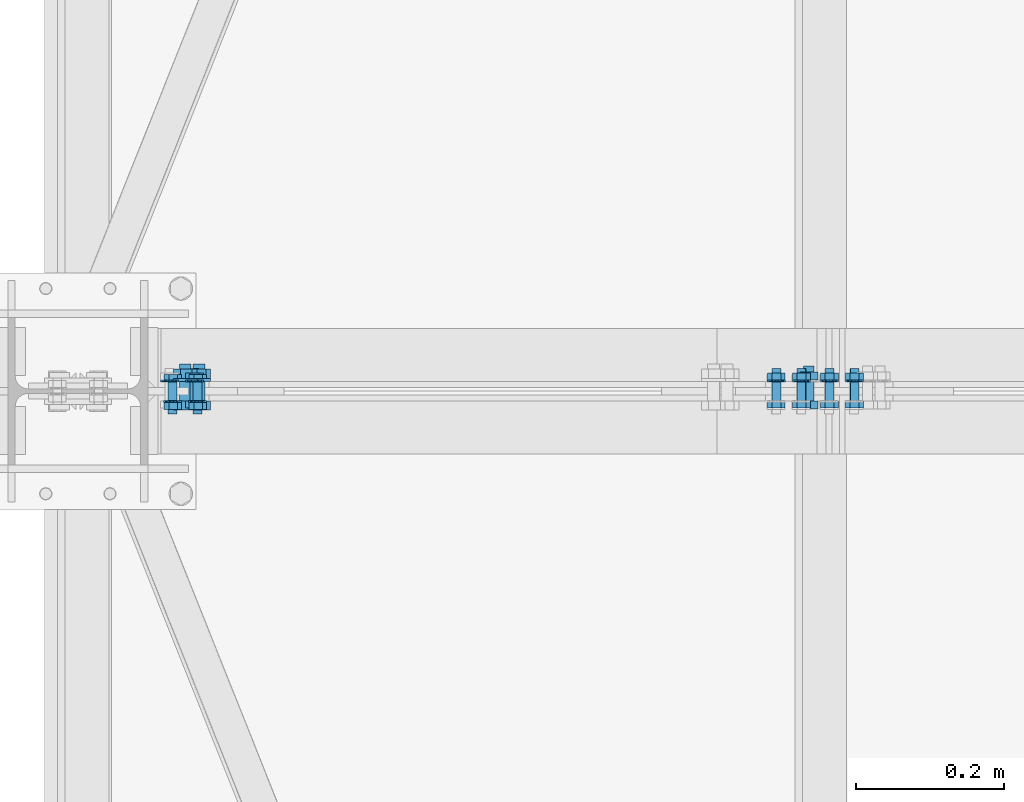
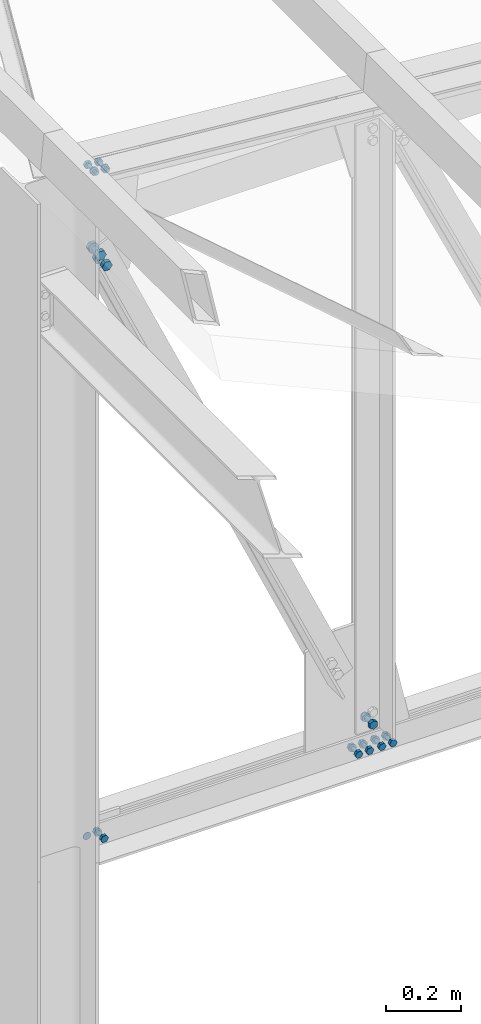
# One storey, part 138 of 251: 40 mechanical fasteners.
"""IFC4 building model written with IfcOpenShell, lengths in metres."""

from ifc_helpers import new_model, si_unit, frame, origin_with_axes, place, context, project, spatial, polyline, outline, extrude, type_object, element, save


model = new_model("IFC4")

# Units and contexts
model_context = context("Model", 3, precision=1e-05, world=origin_with_axes())
ifc_project = project(units=[si_unit("LENGTHUNIT", "METRE"), si_unit("AREAUNIT", "SQUARE_METRE"), si_unit("VOLUMEUNIT", "CUBIC_METRE"), si_unit("MASSUNIT", "GRAM", prefix="KILO"), si_unit("TIMEUNIT", "SECOND"), si_unit("PLANEANGLEUNIT", "RADIAN"), si_unit("SOLIDANGLEUNIT", "STERADIAN"), si_unit("THERMODYNAMICTEMPERATUREUNIT", "DEGREE_CELSIUS")], contexts=[model_context])

# Site, building, storey
placement_1 = place(None, origin_with_axes())
site = spatial("IfcSite", under=ifc_project, at=placement_1, Name="Italia", CompositionType="ELEMENT")
building = spatial("IfcBuilding", under=site, at=placement_1, Name="Deposito", CompositionType="ELEMENT")
storey = spatial("IfcBuildingStorey", under=building, at=placement_1, Name="Storey 0", CompositionType="ELEMENT", Elevation=0.0)

# Mechanical fasteners
mechanical_fastener_type_1 = type_object("IfcMechanicalFastenerType", Name="Reticolare 5", PredefinedType="BOLT")
placement_2 = place(placement_1, origin_with_axes())
mechanical_fastener_1_placement = place(placement_2, origin_with_axes())
element("IfcMechanicalFastener", 1, at=mechanical_fastener_1_placement, inside=storey, type_object=mechanical_fastener_type_1, Name="Reticolare 5", NominalDiameter=0.024, context=model_context, shape_type="SweptSolid", body=[
    extrude(outline(polyline([(0.0, 0.0), (-0.000409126, -0.00310564), (-0.00160789, -0.00600004), (-0.00351477, -0.00848532), (-0.00600004, -0.0103922), (-0.00889444, -0.011591), (-0.0120001, -0.0120001), (-0.0151057, -0.011591), (-0.0180001, -0.0103922), (-0.0204854, -0.00848532), (-0.0223923, -0.00600004), (-0.023591, -0.00310564), (-0.0240002, 0.0), (-0.023591, 0.00310564), (-0.0223923, 0.00600004), (-0.0204854, 0.00848532), (-0.0180001, 0.0103922), (-0.0151057, 0.011591), (-0.0120001, 0.0120001), (-0.00889444, 0.011591), (-0.00600004, 0.0103922), (-0.00351477, 0.00848532), (-0.00160789, 0.00600004), (-0.000409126, 0.00310564), (0.0, 0.0)])), frame((6.18605, 15.015, 5.007), z_axis=(0.0, -1.0, 0.0), x_axis=(1.0, 0.0, 0.0)), (0.0, 0.0, 1.0), 0.00200081),
])
mechanical_fastener_type_2 = type_object("IfcMechanicalFastenerType", Name="Reticolare 5", PredefinedType="BOLT")
mechanical_fastener_2_placement = place(placement_2, origin_with_axes())
element("IfcMechanicalFastener", 2, at=mechanical_fastener_2_placement, inside=storey, type_object=mechanical_fastener_type_2, Name="Reticolare 5", NominalDiameter=0.0119999, context=model_context, shape_type="SweptSolid", body=[
    extrude(outline(polyline([(0.0, 0.0), (-0.0120001, 0.0), (-0.0180001, 0.0103922), (-0.0120001, 0.0207844), (0.0, 0.0207844), (0.00600004, 0.0103922), (0.0, 0.0)])), frame((6.21405, 14.987, 4.99661), z_axis=(0.0, -1.0, 0.0), x_axis=(1.0, 0.0, 0.0)), (0.0, 0.0, 1.0), 0.00960064),
])
mechanical_fastener_type_3 = type_object("IfcMechanicalFastenerType", Name="Reticolare 5", PredefinedType="BOLT")
mechanical_fastener_3_placement = place(placement_2, origin_with_axes())
element("IfcMechanicalFastener", 3, at=mechanical_fastener_3_placement, inside=storey, type_object=mechanical_fastener_type_3, Name="Reticolare 5", NominalDiameter=0.012, context=model_context, shape_type="SweptSolid", body=[
    extrude(outline(polyline([(0.0, 0.0), (-0.000204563, -0.00155306), (-0.000803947, -0.00299978), (-0.00175762, -0.00424242), (-0.00300026, -0.00519609), (-0.00444698, -0.00579548), (-0.00600004, -0.00600004), (-0.0075531, -0.00579548), (-0.00899982, -0.00519609), (-0.0102425, -0.00424242), (-0.0111961, -0.00299978), (-0.0117955, -0.00155306), (-0.0120001, 0.0), (-0.0117955, 0.00155306), (-0.0111961, 0.00299978), (-0.0102425, 0.00424242), (-0.00899982, 0.00519609), (-0.0075531, 0.00579548), (-0.00600004, 0.00600004), (-0.00444698, 0.00579548), (-0.00300026, 0.00519609), (-0.00175762, 0.00424242), (-0.000803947, 0.00299978), (-0.000204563, 0.00155306), (0.0, 0.0)])), frame((6.21405, 15.031, 5.007), z_axis=(0.0, -1.0, 0.0), x_axis=(1.0, 0.0, 0.0)), (0.0, 0.0, 1.0), 0.0439997),
])
mechanical_fastener_type_4 = type_object("IfcMechanicalFastenerType", Name="Reticolare 5", PredefinedType="BOLT")
mechanical_fastener_4_placement = place(placement_2, origin_with_axes())
element("IfcMechanicalFastener", 4, at=mechanical_fastener_4_placement, inside=storey, type_object=mechanical_fastener_type_4, Name="Reticolare 5", NominalDiameter=0.0119999, context=model_context, shape_type="SweptSolid", body=[
    extrude(outline(polyline([(0.0, 0.0), (-0.0120001, 0.0), (-0.0180001, 0.0103922), (-0.0120001, 0.0207844), (0.0, 0.0207844), (0.00600004, 0.0103922), (0.0, 0.0)])), frame((6.21405, 15.0246, 4.99661), z_axis=(0.0, -1.0, 0.0), x_axis=(1.0, 0.0, 0.0)), (0.0, 0.0, 1.0), 0.00959969),
])
mechanical_fastener_type_5 = type_object("IfcMechanicalFastenerType", Name="Reticolare 5", PredefinedType="BOLT")
mechanical_fastener_5_placement = place(placement_2, origin_with_axes())
element("IfcMechanicalFastener", 5, at=mechanical_fastener_5_placement, inside=storey, type_object=mechanical_fastener_type_5, Name="Reticolare 5", NominalDiameter=0.024, context=model_context, shape_type="SweptSolid", body=[
    extrude(outline(polyline([(0.0, 0.0), (-0.000409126, -0.00310564), (-0.00160789, -0.00600004), (-0.00351477, -0.00848532), (-0.00600004, -0.0103922), (-0.00889444, -0.011591), (-0.0120001, -0.0120001), (-0.0151057, -0.011591), (-0.0180001, -0.0103922), (-0.0204854, -0.00848532), (-0.0223923, -0.00600004), (-0.023591, -0.00310564), (-0.0240002, 0.0), (-0.023591, 0.00310564), (-0.0223923, 0.00600004), (-0.0204854, 0.00848532), (-0.0180001, 0.0103922), (-0.0151057, 0.011591), (-0.0120001, 0.0120001), (-0.00889444, 0.011591), (-0.00600004, 0.0103922), (-0.00351477, 0.00848532), (-0.00160789, 0.00600004), (-0.000409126, 0.00310564), (0.0, 0.0)])), frame((6.22005, 15.015, 5.007), z_axis=(0.0, -1.0, 0.0), x_axis=(1.0, 0.0, 0.0)), (0.0, 0.0, 1.0), 0.00200081),
])
mechanical_fastener_type_6 = type_object("IfcMechanicalFastenerType", Name="Reticolare 5", PredefinedType="BOLT")
mechanical_fastener_6_placement = place(placement_2, origin_with_axes())
element("IfcMechanicalFastener", 6, at=mechanical_fastener_6_placement, inside=storey, type_object=mechanical_fastener_type_6, Name="Reticolare 5", NominalDiameter=0.0119999, context=model_context, shape_type="SweptSolid", body=[
    extrude(outline(polyline([(0.0, 0.0), (-0.0120001, 0.0), (-0.0180001, 0.0103922), (-0.0120001, 0.0207844), (0.0, 0.0207844), (0.00600004, 0.0103922), (0.0, 0.0)])), frame((7.03647, 14.987, 4.99661), z_axis=(0.0, -1.0, 0.0), x_axis=(1.0, 0.0, 0.0)), (0.0, 0.0, 1.0), 0.00960064),
])
mechanical_fastener_type_7 = type_object("IfcMechanicalFastenerType", Name="Reticolare 5", PredefinedType="BOLT")
mechanical_fastener_7_placement = place(placement_2, origin_with_axes())
element("IfcMechanicalFastener", 7, at=mechanical_fastener_7_placement, inside=storey, type_object=mechanical_fastener_type_7, Name="Reticolare 5", NominalDiameter=0.012, context=model_context, shape_type="SweptSolid", body=[
    extrude(outline(polyline([(0.0, 0.0), (-0.000204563, -0.00155306), (-0.000803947, -0.00299978), (-0.00175762, -0.00424242), (-0.00300026, -0.00519609), (-0.00444698, -0.00579548), (-0.00600004, -0.00600004), (-0.0075531, -0.00579548), (-0.00899982, -0.00519609), (-0.0102425, -0.00424242), (-0.0111961, -0.00299978), (-0.0117955, -0.00155306), (-0.0120001, 0.0), (-0.0117955, 0.00155306), (-0.0111961, 0.00299978), (-0.0102425, 0.00424242), (-0.00899982, 0.00519609), (-0.0075531, 0.00579548), (-0.00600004, 0.00600004), (-0.00444698, 0.00579548), (-0.00300026, 0.00519609), (-0.00175762, 0.00424242), (-0.000803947, 0.00299978), (-0.000204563, 0.00155306), (0.0, 0.0)])), frame((7.03647, 15.031, 5.007), z_axis=(0.0, -1.0, 0.0), x_axis=(1.0, 0.0, 0.0)), (0.0, 0.0, 1.0), 0.0439997),
])
mechanical_fastener_type_8 = type_object("IfcMechanicalFastenerType", Name="Reticolare 5", PredefinedType="BOLT")
mechanical_fastener_8_placement = place(placement_2, origin_with_axes())
element("IfcMechanicalFastener", 8, at=mechanical_fastener_8_placement, inside=storey, type_object=mechanical_fastener_type_8, Name="Reticolare 5", NominalDiameter=0.0119999, context=model_context, shape_type="SweptSolid", body=[
    extrude(outline(polyline([(0.0, 0.0), (-0.0120001, 0.0), (-0.0180001, 0.0103922), (-0.0120001, 0.0207844), (0.0, 0.0207844), (0.00600004, 0.0103922), (0.0, 0.0)])), frame((7.03647, 15.0246, 4.99661), z_axis=(0.0, -1.0, 0.0), x_axis=(1.0, 0.0, 0.0)), (0.0, 0.0, 1.0), 0.00959969),
])
mechanical_fastener_type_9 = type_object("IfcMechanicalFastenerType", Name="Reticolare 5", PredefinedType="BOLT")
mechanical_fastener_9_placement = place(placement_2, origin_with_axes())
element("IfcMechanicalFastener", 9, at=mechanical_fastener_9_placement, inside=storey, type_object=mechanical_fastener_type_9, Name="Reticolare 5", NominalDiameter=0.024, context=model_context, shape_type="SweptSolid", body=[
    extrude(outline(polyline([(0.0, 0.0), (-0.000409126, -0.00310564), (-0.00160789, -0.00600004), (-0.00351477, -0.00848532), (-0.00600004, -0.0103922), (-0.00889444, -0.011591), (-0.0120001, -0.0120001), (-0.0151057, -0.011591), (-0.0180001, -0.0103922), (-0.0204854, -0.00848532), (-0.0223923, -0.00600004), (-0.023591, -0.00310564), (-0.0240002, 0.0), (-0.023591, 0.00310564), (-0.0223923, 0.00600004), (-0.0204854, 0.00848532), (-0.0180001, 0.0103922), (-0.0151057, 0.011591), (-0.0120001, 0.0120001), (-0.00889444, 0.011591), (-0.00600004, 0.0103922), (-0.00351477, 0.00848532), (-0.00160789, 0.00600004), (-0.000409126, 0.00310564), (0.0, 0.0)])), frame((7.04247, 15.015, 5.007), z_axis=(0.0, -1.0, 0.0), x_axis=(1.0, 0.0, 0.0)), (0.0, 0.0, 1.0), 0.00200081),
])
mechanical_fastener_type_10 = type_object("IfcMechanicalFastenerType", Name="Reticolare 5", PredefinedType="BOLT")
mechanical_fastener_10_placement = place(placement_2, origin_with_axes())
element("IfcMechanicalFastener", 10, at=mechanical_fastener_10_placement, inside=storey, type_object=mechanical_fastener_type_10, Name="Reticolare 5", NominalDiameter=0.0119999, context=model_context, shape_type="SweptSolid", body=[
    extrude(outline(polyline([(0.0, 0.0), (-0.0120001, 0.0), (-0.0180001, 0.0103922), (-0.0120001, 0.0207844), (0.0, 0.0207844), (0.00600004, 0.0103922), (0.0, 0.0)])), frame((7.00247, 14.987, 4.99661), z_axis=(0.0, -1.0, 0.0), x_axis=(1.0, 0.0, 0.0)), (0.0, 0.0, 1.0), 0.00960064),
])
mechanical_fastener_type_11 = type_object("IfcMechanicalFastenerType", Name="Reticolare 5", PredefinedType="BOLT")
mechanical_fastener_11_placement = place(placement_2, origin_with_axes())
element("IfcMechanicalFastener", 11, at=mechanical_fastener_11_placement, inside=storey, type_object=mechanical_fastener_type_11, Name="Reticolare 5", NominalDiameter=0.012, context=model_context, shape_type="SweptSolid", body=[
    extrude(outline(polyline([(0.0, 0.0), (-0.000204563, -0.00155306), (-0.000803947, -0.00299978), (-0.00175762, -0.00424242), (-0.00300026, -0.00519609), (-0.00444698, -0.00579548), (-0.00600004, -0.00600004), (-0.0075531, -0.00579548), (-0.00899982, -0.00519609), (-0.0102425, -0.00424242), (-0.0111961, -0.00299978), (-0.0117955, -0.00155306), (-0.0120001, 0.0), (-0.0117955, 0.00155306), (-0.0111961, 0.00299978), (-0.0102425, 0.00424242), (-0.00899982, 0.00519609), (-0.0075531, 0.00579548), (-0.00600004, 0.00600004), (-0.00444698, 0.00579548), (-0.00300026, 0.00519609), (-0.00175762, 0.00424242), (-0.000803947, 0.00299978), (-0.000204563, 0.00155306), (0.0, 0.0)])), frame((7.00247, 15.031, 5.007), z_axis=(0.0, -1.0, 0.0), x_axis=(1.0, 0.0, 0.0)), (0.0, 0.0, 1.0), 0.0439997),
])
mechanical_fastener_type_12 = type_object("IfcMechanicalFastenerType", Name="Reticolare 5", PredefinedType="BOLT")
mechanical_fastener_12_placement = place(placement_2, origin_with_axes())
element("IfcMechanicalFastener", 12, at=mechanical_fastener_12_placement, inside=storey, type_object=mechanical_fastener_type_12, Name="Reticolare 5", NominalDiameter=0.0119999, context=model_context, shape_type="SweptSolid", body=[
    extrude(outline(polyline([(0.0, 0.0), (-0.0120001, 0.0), (-0.0180001, 0.0103922), (-0.0120001, 0.0207844), (0.0, 0.0207844), (0.00600004, 0.0103922), (0.0, 0.0)])), frame((7.00247, 15.0246, 4.99661), z_axis=(0.0, -1.0, 0.0), x_axis=(1.0, 0.0, 0.0)), (0.0, 0.0, 1.0), 0.00959969),
])
mechanical_fastener_type_13 = type_object("IfcMechanicalFastenerType", Name="Reticolare 5", PredefinedType="BOLT")
mechanical_fastener_13_placement = place(placement_2, origin_with_axes())
element("IfcMechanicalFastener", 13, at=mechanical_fastener_13_placement, inside=storey, type_object=mechanical_fastener_type_13, Name="Reticolare 5", NominalDiameter=0.024, context=model_context, shape_type="SweptSolid", body=[
    extrude(outline(polyline([(0.0, 0.0), (-0.000409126, -0.00310564), (-0.00160789, -0.00600004), (-0.00351477, -0.00848532), (-0.00600004, -0.0103922), (-0.00889444, -0.011591), (-0.0120001, -0.0120001), (-0.0151057, -0.011591), (-0.0180001, -0.0103922), (-0.0204854, -0.00848532), (-0.0223923, -0.00600004), (-0.023591, -0.00310564), (-0.0240002, 0.0), (-0.023591, 0.00310564), (-0.0223923, 0.00600004), (-0.0204854, 0.00848532), (-0.0180001, 0.0103922), (-0.0151057, 0.011591), (-0.0120001, 0.0120001), (-0.00889444, 0.011591), (-0.00600004, 0.0103922), (-0.00351477, 0.00848532), (-0.00160789, 0.00600004), (-0.000409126, 0.00310564), (0.0, 0.0)])), frame((7.00847, 15.015, 5.007), z_axis=(0.0, -1.0, 0.0), x_axis=(1.0, 0.0, 0.0)), (0.0, 0.0, 1.0), 0.00200081),
])
mechanical_fastener_type_14 = type_object("IfcMechanicalFastenerType", Name="Reticolare 5", PredefinedType="BOLT")
mechanical_fastener_14_placement = place(placement_2, origin_with_axes())
element("IfcMechanicalFastener", 14, at=mechanical_fastener_14_placement, inside=storey, type_object=mechanical_fastener_type_14, Name="Reticolare 5", NominalDiameter=0.0119999, context=model_context, shape_type="SweptSolid", body=[
    extrude(outline(polyline([(0.0, 0.0), (-0.0120001, 0.0), (-0.0180001, 0.0103922), (-0.0120001, 0.0207844), (0.0, 0.0207844), (0.00600004, 0.0103922), (0.0, 0.0)])), frame((7.07447, 14.987, 4.99661), z_axis=(0.0, -1.0, 0.0), x_axis=(1.0, 0.0, 0.0)), (0.0, 0.0, 1.0), 0.00960064),
])
mechanical_fastener_type_15 = type_object("IfcMechanicalFastenerType", Name="Reticolare 5", PredefinedType="BOLT")
mechanical_fastener_15_placement = place(placement_2, origin_with_axes())
element("IfcMechanicalFastener", 15, at=mechanical_fastener_15_placement, inside=storey, type_object=mechanical_fastener_type_15, Name="Reticolare 5", NominalDiameter=0.012, context=model_context, shape_type="SweptSolid", body=[
    extrude(outline(polyline([(0.0, 0.0), (-0.000204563, -0.00155306), (-0.000803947, -0.00299978), (-0.00175762, -0.00424242), (-0.00300026, -0.00519609), (-0.00444698, -0.00579548), (-0.00600004, -0.00600004), (-0.0075531, -0.00579548), (-0.00899982, -0.00519609), (-0.0102425, -0.00424242), (-0.0111961, -0.00299978), (-0.0117955, -0.00155306), (-0.0120001, 0.0), (-0.0117955, 0.00155306), (-0.0111961, 0.00299978), (-0.0102425, 0.00424242), (-0.00899982, 0.00519609), (-0.0075531, 0.00579548), (-0.00600004, 0.00600004), (-0.00444698, 0.00579548), (-0.00300026, 0.00519609), (-0.00175762, 0.00424242), (-0.000803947, 0.00299978), (-0.000204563, 0.00155306), (0.0, 0.0)])), frame((7.07447, 15.031, 5.007), z_axis=(0.0, -1.0, 0.0), x_axis=(1.0, 0.0, 0.0)), (0.0, 0.0, 1.0), 0.0439997),
])
mechanical_fastener_type_16 = type_object("IfcMechanicalFastenerType", Name="Reticolare 5", PredefinedType="BOLT")
mechanical_fastener_16_placement = place(placement_2, origin_with_axes())
element("IfcMechanicalFastener", 16, at=mechanical_fastener_16_placement, inside=storey, type_object=mechanical_fastener_type_16, Name="Reticolare 5", NominalDiameter=0.0119999, context=model_context, shape_type="SweptSolid", body=[
    extrude(outline(polyline([(0.0, 0.0), (-0.0120001, 0.0), (-0.0180001, 0.0103922), (-0.0120001, 0.0207844), (0.0, 0.0207844), (0.00600004, 0.0103922), (0.0, 0.0)])), frame((7.07447, 15.0246, 4.99661), z_axis=(0.0, -1.0, 0.0), x_axis=(1.0, 0.0, 0.0)), (0.0, 0.0, 1.0), 0.00959969),
])
mechanical_fastener_type_17 = type_object("IfcMechanicalFastenerType", Name="Reticolare 5", PredefinedType="BOLT")
mechanical_fastener_17_placement = place(placement_2, origin_with_axes())
element("IfcMechanicalFastener", 17, at=mechanical_fastener_17_placement, inside=storey, type_object=mechanical_fastener_type_17, Name="Reticolare 5", NominalDiameter=0.024, context=model_context, shape_type="SweptSolid", body=[
    extrude(outline(polyline([(0.0, 0.0), (-0.000409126, -0.00310564), (-0.00160789, -0.00600004), (-0.00351477, -0.00848532), (-0.00600004, -0.0103922), (-0.00889444, -0.011591), (-0.0120001, -0.0120001), (-0.0151057, -0.011591), (-0.0180001, -0.0103922), (-0.0204854, -0.00848532), (-0.0223923, -0.00600004), (-0.023591, -0.00310564), (-0.0240002, 0.0), (-0.023591, 0.00310564), (-0.0223923, 0.00600004), (-0.0204854, 0.00848532), (-0.0180001, 0.0103922), (-0.0151057, 0.011591), (-0.0120001, 0.0120001), (-0.00889444, 0.011591), (-0.00600004, 0.0103922), (-0.00351477, 0.00848532), (-0.00160789, 0.00600004), (-0.000409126, 0.00310564), (0.0, 0.0)])), frame((7.08047, 15.015, 5.007), z_axis=(0.0, -1.0, 0.0), x_axis=(1.0, 0.0, 0.0)), (0.0, 0.0, 1.0), 0.00200081),
])
mechanical_fastener_type_18 = type_object("IfcMechanicalFastenerType", Name="Reticolare 5", PredefinedType="BOLT")
mechanical_fastener_18_placement = place(placement_2, origin_with_axes())
element("IfcMechanicalFastener", 18, at=mechanical_fastener_18_placement, inside=storey, type_object=mechanical_fastener_type_18, Name="Reticolare 5", NominalDiameter=0.0119999, context=model_context, shape_type="SweptSolid", body=[
    extrude(outline(polyline([(0.0, 0.0), (-0.0120001, 0.0), (-0.0180001, 0.0103922), (-0.0120001, 0.0207844), (0.0, 0.0207844), (0.00600004, 0.0103922), (0.0, 0.0)])), frame((7.10847, 14.987, 4.99661), z_axis=(0.0, -1.0, 0.0), x_axis=(1.0, 0.0, 0.0)), (0.0, 0.0, 1.0), 0.00960064),
])
mechanical_fastener_type_19 = type_object("IfcMechanicalFastenerType", Name="Reticolare 5", PredefinedType="BOLT")
mechanical_fastener_19_placement = place(placement_2, origin_with_axes())
element("IfcMechanicalFastener", 19, at=mechanical_fastener_19_placement, inside=storey, type_object=mechanical_fastener_type_19, Name="Reticolare 5", NominalDiameter=0.012, context=model_context, shape_type="SweptSolid", body=[
    extrude(outline(polyline([(0.0, 0.0), (-0.000204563, -0.00155306), (-0.000803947, -0.00299978), (-0.00175762, -0.00424242), (-0.00300026, -0.00519609), (-0.00444698, -0.00579548), (-0.00600004, -0.00600004), (-0.0075531, -0.00579548), (-0.00899982, -0.00519609), (-0.0102425, -0.00424242), (-0.0111961, -0.00299978), (-0.0117955, -0.00155306), (-0.0120001, 0.0), (-0.0117955, 0.00155306), (-0.0111961, 0.00299978), (-0.0102425, 0.00424242), (-0.00899982, 0.00519609), (-0.0075531, 0.00579548), (-0.00600004, 0.00600004), (-0.00444698, 0.00579548), (-0.00300026, 0.00519609), (-0.00175762, 0.00424242), (-0.000803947, 0.00299978), (-0.000204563, 0.00155306), (0.0, 0.0)])), frame((7.10847, 15.031, 5.007), z_axis=(0.0, -1.0, 0.0), x_axis=(1.0, 0.0, 0.0)), (0.0, 0.0, 1.0), 0.0439997),
])
mechanical_fastener_type_20 = type_object("IfcMechanicalFastenerType", Name="Reticolare 5", PredefinedType="BOLT")
mechanical_fastener_20_placement = place(placement_2, origin_with_axes())
element("IfcMechanicalFastener", 20, at=mechanical_fastener_20_placement, inside=storey, type_object=mechanical_fastener_type_20, Name="Reticolare 5", NominalDiameter=0.0119999, context=model_context, shape_type="SweptSolid", body=[
    extrude(outline(polyline([(0.0, 0.0), (-0.0120001, 0.0), (-0.0180001, 0.0103922), (-0.0120001, 0.0207844), (0.0, 0.0207844), (0.00600004, 0.0103922), (0.0, 0.0)])), frame((7.10847, 15.0246, 4.99661), z_axis=(0.0, -1.0, 0.0), x_axis=(1.0, 0.0, 0.0)), (0.0, 0.0, 1.0), 0.00959969),
])
mechanical_fastener_type_21 = type_object("IfcMechanicalFastenerType", Name="Reticolare 5", PredefinedType="BOLT")
mechanical_fastener_21_placement = place(placement_2, origin_with_axes())
element("IfcMechanicalFastener", 21, at=mechanical_fastener_21_placement, inside=storey, type_object=mechanical_fastener_type_21, Name="Reticolare 5", NominalDiameter=0.024, context=model_context, shape_type="SweptSolid", body=[
    extrude(outline(polyline([(0.0, 0.0), (-0.000409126, -0.00310564), (-0.00160789, -0.00600004), (-0.00351477, -0.00848532), (-0.00600004, -0.0103922), (-0.00889444, -0.011591), (-0.0120001, -0.0120001), (-0.0151057, -0.011591), (-0.0180001, -0.0103922), (-0.0204854, -0.00848532), (-0.0223923, -0.00600004), (-0.023591, -0.00310564), (-0.0240002, 0.0), (-0.023591, 0.00310564), (-0.0223923, 0.00600004), (-0.0204854, 0.00848532), (-0.0180001, 0.0103922), (-0.0151057, 0.011591), (-0.0120001, 0.0120001), (-0.00889444, 0.011591), (-0.00600004, 0.0103922), (-0.00351477, 0.00848532), (-0.00160789, 0.00600004), (-0.000409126, 0.00310564), (0.0, 0.0)])), frame((7.11447, 15.015, 5.007), z_axis=(0.0, -1.0, 0.0), x_axis=(1.0, 0.0, 0.0)), (0.0, 0.0, 1.0), 0.00200081),
])
mechanical_fastener_type_22 = type_object("IfcMechanicalFastenerType", Name="Reticolare 5", PredefinedType="BOLT")
mechanical_fastener_22_placement = place(placement_2, origin_with_axes())
element("IfcMechanicalFastener", 22, at=mechanical_fastener_22_placement, inside=storey, type_object=mechanical_fastener_type_22, Name="Reticolare 5", NominalDiameter=0.0139997, context=model_context, shape_type="SweptSolid", body=[
    extrude(outline(polyline([(0.0, 0.0), (0.0, -0.0139999), (-0.0121241, -0.0209999), (-0.0242486, -0.0139999), (-0.0242486, 0.0), (-0.0121241, 0.00699997), (0.0, 0.0)])), frame((7.05259, 14.987, 5.09653), z_axis=(0.0, -1.0, 0.0), x_axis=(1.0, 0.0, 0.0)), (0.0, 0.0, 1.0), 0.0112009),
])
mechanical_fastener_type_23 = type_object("IfcMechanicalFastenerType", Name="Reticolare 5", PredefinedType="BOLT")
mechanical_fastener_23_placement = place(placement_2, origin_with_axes())
element("IfcMechanicalFastener", 23, at=mechanical_fastener_23_placement, inside=storey, type_object=mechanical_fastener_type_23, Name="Reticolare 5", NominalDiameter=0.014, context=model_context, shape_type="SweptSolid", body=[
    extrude(outline(polyline([(0.0, 0.0), (-0.000238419, -0.0018115), (-0.000937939, -0.00349998), (-0.0020504, -0.00494957), (-0.00349998, -0.00606203), (-0.00518847, -0.00676155), (-0.00699997, -0.00699997), (-0.00881147, -0.00676155), (-0.0105, -0.00606203), (-0.0119495, -0.00494957), (-0.013062, -0.00349998), (-0.0137615, -0.0018115), (-0.0139999, 0.0), (-0.0137615, 0.0018115), (-0.013062, 0.00349998), (-0.0119495, 0.00494957), (-0.0105, 0.00606203), (-0.00881147, 0.00676155), (-0.00699997, 0.00699997), (-0.00518847, 0.00676155), (-0.00349998, 0.00606203), (-0.0020504, 0.00494957), (-0.000937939, 0.00349998), (-0.000238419, 0.0018115), (0.0, 0.0)])), frame((7.04747, 15.034, 5.08953), z_axis=(0.0, -1.0, 0.0), x_axis=(1.0, 0.0, 0.0)), (0.0, 0.0, 1.0), 0.0469999),
])
mechanical_fastener_type_24 = type_object("IfcMechanicalFastenerType", Name="Reticolare 5", PredefinedType="BOLT")
mechanical_fastener_24_placement = place(placement_2, origin_with_axes())
element("IfcMechanicalFastener", 24, at=mechanical_fastener_24_placement, inside=storey, type_object=mechanical_fastener_type_24, Name="Reticolare 5", NominalDiameter=0.0139997, context=model_context, shape_type="SweptSolid", body=[
    extrude(outline(polyline([(0.0, 0.0), (0.0, -0.0139999), (-0.0121241, -0.0209999), (-0.0242486, -0.0139999), (-0.0242486, 0.0), (-0.0121241, 0.00699997), (0.0, 0.0)])), frame((7.05259, 15.0262, 5.09653), z_axis=(0.0, -1.0, 0.0), x_axis=(1.0, 0.0, 0.0)), (0.0, 0.0, 1.0), 0.0112),
])
mechanical_fastener_type_25 = type_object("IfcMechanicalFastenerType", Name="Reticolare 5", PredefinedType="BOLT")
mechanical_fastener_25_placement = place(placement_2, origin_with_axes())
element("IfcMechanicalFastener", 25, at=mechanical_fastener_25_placement, inside=storey, type_object=mechanical_fastener_type_25, Name="Reticolare 5", NominalDiameter=0.012, context=model_context, shape_type="SweptSolid", body=[
    extrude(outline(polyline([(0.0, 0.0), (0.0119548, 0.00104237), (0.0188351, -0.00878954), (0.0137606, -0.0196638), (0.00180578, -0.0207062), (-0.0050745, -0.0108743), (0.0, 0.0)])), frame((6.18524, 15.013, 7.21179), z_axis=(0.0, 1.0, 0.0), x_axis=(-1.0, 0.0, 0.0)), (0.0, 0.0, 1.0), 0.00960064),
])
mechanical_fastener_type_26 = type_object("IfcMechanicalFastenerType", Name="Reticolare 5", PredefinedType="BOLT")
mechanical_fastener_26_placement = place(placement_2, origin_with_axes())
element("IfcMechanicalFastener", 26, at=mechanical_fastener_26_placement, inside=storey, type_object=mechanical_fastener_type_26, Name="Reticolare 5", NominalDiameter=0.012, context=model_context, shape_type="SweptSolid", body=[
    extrude(outline(polyline([(0.0, 0.0), (-0.000204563, -0.00155306), (-0.000803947, -0.00299978), (-0.00175762, -0.00424242), (-0.00300026, -0.00519609), (-0.00444698, -0.00579548), (-0.00600004, -0.00600004), (-0.0075531, -0.00579548), (-0.00899982, -0.00519609), (-0.0102425, -0.00424242), (-0.0111961, -0.00299978), (-0.0117955, -0.00155306), (-0.0120001, 0.0), (-0.0117955, 0.00155306), (-0.0111961, 0.00299978), (-0.0102425, 0.00424242), (-0.00899982, 0.00519609), (-0.0075531, 0.00579548), (-0.00600004, 0.00600004), (-0.00444698, 0.00579548), (-0.00300026, 0.00519609), (-0.00175762, 0.00424242), (-0.000803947, 0.00299978), (-0.000204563, 0.00155306), (0.0, 0.0)])), frame((6.17236, 14.969, 7.20196), z_axis=(0.0, 1.0, 0.0), x_axis=(-1.0, 0.0, 0.0)), (0.0, 0.0, 1.0), 0.0439997),
])
mechanical_fastener_type_27 = type_object("IfcMechanicalFastenerType", Name="Reticolare 5", PredefinedType="BOLT")
mechanical_fastener_27_placement = place(placement_2, origin_with_axes())
element("IfcMechanicalFastener", 27, at=mechanical_fastener_27_placement, inside=storey, type_object=mechanical_fastener_type_27, Name="Reticolare 5", NominalDiameter=0.012, context=model_context, shape_type="SweptSolid", body=[
    extrude(outline(polyline([(0.0, 0.0), (0.0119548, 0.00104237), (0.0188351, -0.00878954), (0.0137606, -0.0196638), (0.00180578, -0.0207062), (-0.0050745, -0.0108743), (0.0, 0.0)])), frame((6.18524, 14.9754, 7.21179), z_axis=(0.0, 1.0, 0.0), x_axis=(-1.0, 0.0, 0.0)), (0.0, 0.0, 1.0), 0.00959969),
])
mechanical_fastener_type_28 = type_object("IfcMechanicalFastenerType", Name="Reticolare 5", PredefinedType="BOLT")
mechanical_fastener_28_placement = place(placement_2, origin_with_axes())
element("IfcMechanicalFastener", 28, at=mechanical_fastener_28_placement, inside=storey, type_object=mechanical_fastener_type_28, Name="Reticolare 5", NominalDiameter=0.024, context=model_context, shape_type="SweptSolid", body=[
    extrude(outline(polyline([(0.0, 0.0), (-0.000409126, -0.00310564), (-0.00160789, -0.00600004), (-0.00351477, -0.00848532), (-0.00600004, -0.0103922), (-0.00889444, -0.011591), (-0.0120001, -0.0120001), (-0.0151057, -0.011591), (-0.0180001, -0.0103922), (-0.0204854, -0.00848532), (-0.0223923, -0.00600004), (-0.023591, -0.00310564), (-0.0240002, 0.0), (-0.023591, 0.00310564), (-0.0223923, 0.00600004), (-0.0204854, 0.00848532), (-0.0180001, 0.0103922), (-0.0151057, 0.011591), (-0.0120001, 0.0120001), (-0.00889444, 0.011591), (-0.00600004, 0.0103922), (-0.00351477, 0.00848532), (-0.00160789, 0.00600004), (-0.000409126, 0.00310564), (0.0, 0.0)])), frame((6.16636, 14.985, 7.20196), z_axis=(0.0, 1.0, 0.0), x_axis=(-1.0, 0.0, 0.0)), (0.0, 0.0, 1.0), 0.00200081),
])
mechanical_fastener_type_29 = type_object("IfcMechanicalFastenerType", Name="Reticolare 5", PredefinedType="BOLT")
mechanical_fastener_29_placement = place(placement_2, origin_with_axes())
element("IfcMechanicalFastener", 29, at=mechanical_fastener_29_placement, inside=storey, type_object=mechanical_fastener_type_29, Name="Reticolare 5", NominalDiameter=0.0119995, context=model_context, shape_type="SweptSolid", body=[
    extrude(outline(polyline([(0.0, 0.0), (0.0119543, 0.00104284), (0.0188346, -0.00878906), (0.0137601, -0.0196633), (0.00180531, -0.0207057), (-0.0050745, -0.0108743), (0.0, 0.0)])), frame((6.21912, 15.013, 7.20884), z_axis=(0.0, 1.0, 0.0), x_axis=(-1.0, 0.0, 0.0)), (0.0, 0.0, 1.0), 0.00960064),
])
mechanical_fastener_type_30 = type_object("IfcMechanicalFastenerType", Name="Reticolare 5", PredefinedType="BOLT")
mechanical_fastener_30_placement = place(placement_2, origin_with_axes())
element("IfcMechanicalFastener", 30, at=mechanical_fastener_30_placement, inside=storey, type_object=mechanical_fastener_type_30, Name="Reticolare 5", NominalDiameter=0.012, context=model_context, shape_type="SweptSolid", body=[
    extrude(outline(polyline([(0.0, 0.0), (-0.000204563, -0.00155306), (-0.000803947, -0.00299978), (-0.00175762, -0.00424242), (-0.00300026, -0.00519609), (-0.00444698, -0.00579548), (-0.00600004, -0.00600004), (-0.0075531, -0.00579548), (-0.00899982, -0.00519609), (-0.0102425, -0.00424242), (-0.0111961, -0.00299978), (-0.0117955, -0.00155306), (-0.0120001, 0.0), (-0.0117955, 0.00155306), (-0.0111961, 0.00299978), (-0.0102425, 0.00424242), (-0.00899982, 0.00519609), (-0.0075531, 0.00579548), (-0.00600004, 0.00600004), (-0.00444698, 0.00579548), (-0.00300026, 0.00519609), (-0.00175762, 0.00424242), (-0.000803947, 0.00299978), (-0.000204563, 0.00155306), (0.0, 0.0)])), frame((6.20624, 14.969, 7.19901), z_axis=(0.0, 1.0, 0.0), x_axis=(-1.0, 0.0, 0.0)), (0.0, 0.0, 1.0), 0.0439997),
])
mechanical_fastener_type_31 = type_object("IfcMechanicalFastenerType", Name="Reticolare 5", PredefinedType="BOLT")
mechanical_fastener_31_placement = place(placement_2, origin_with_axes())
element("IfcMechanicalFastener", 31, at=mechanical_fastener_31_placement, inside=storey, type_object=mechanical_fastener_type_31, Name="Reticolare 5", NominalDiameter=0.0119995, context=model_context, shape_type="SweptSolid", body=[
    extrude(outline(polyline([(0.0, 0.0), (0.0119543, 0.00104284), (0.0188346, -0.00878906), (0.0137601, -0.0196633), (0.00180531, -0.0207057), (-0.0050745, -0.0108743), (0.0, 0.0)])), frame((6.21912, 14.9754, 7.20884), z_axis=(0.0, 1.0, 0.0), x_axis=(-1.0, 0.0, 0.0)), (0.0, 0.0, 1.0), 0.00959969),
])
mechanical_fastener_type_32 = type_object("IfcMechanicalFastenerType", Name="Reticolare 5", PredefinedType="BOLT")
mechanical_fastener_32_placement = place(placement_2, origin_with_axes())
element("IfcMechanicalFastener", 32, at=mechanical_fastener_32_placement, inside=storey, type_object=mechanical_fastener_type_32, Name="Reticolare 5", NominalDiameter=0.024, context=model_context, shape_type="SweptSolid", body=[
    extrude(outline(polyline([(0.0, 0.0), (-0.000409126, -0.00310564), (-0.00160789, -0.00600004), (-0.00351477, -0.00848532), (-0.00600004, -0.0103922), (-0.00889444, -0.011591), (-0.0120001, -0.0120001), (-0.0151057, -0.011591), (-0.0180001, -0.0103922), (-0.0204854, -0.00848532), (-0.0223923, -0.00600004), (-0.023591, -0.00310564), (-0.0240002, 0.0), (-0.023591, 0.00310564), (-0.0223923, 0.00600004), (-0.0204854, 0.00848532), (-0.0180001, 0.0103922), (-0.0151057, 0.011591), (-0.0120001, 0.0120001), (-0.00889444, 0.011591), (-0.00600004, 0.0103922), (-0.00351477, 0.00848532), (-0.00160789, 0.00600004), (-0.000409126, 0.00310564), (0.0, 0.0)])), frame((6.20024, 14.985, 7.19901), z_axis=(0.0, 1.0, 0.0), x_axis=(-1.0, 0.0, 0.0)), (0.0, 0.0, 1.0), 0.00200081),
])
mechanical_fastener_type_33 = type_object("IfcMechanicalFastenerType", Name="Reticolare 5", PredefinedType="BOLT")
mechanical_fastener_33_placement = place(placement_2, origin_with_axes())
element("IfcMechanicalFastener", 33, at=mechanical_fastener_33_placement, inside=storey, type_object=mechanical_fastener_type_33, Name="Reticolare 5", NominalDiameter=0.0159996, context=model_context, shape_type="SweptSolid", body=[
    extrude(outline(polyline([(0.0, 0.0), (-0.00656796, 0.0145898), (0.00278282, 0.0275726), (0.018702, 0.0259657), (0.02527, 0.0113759), (0.0159187, -0.00160694), (0.0, 0.0)])), frame((6.18611, 14.987, 6.91087), z_axis=(0.0, -1.0, 0.0), x_axis=(1.0, 0.0, 0.0)), (0.0, 0.0, 1.0), 0.0128002),
])
mechanical_fastener_type_34 = type_object("IfcMechanicalFastenerType", Name="Reticolare 5", PredefinedType="BOLT")
mechanical_fastener_34_placement = place(placement_2, origin_with_axes())
element("IfcMechanicalFastener", 34, at=mechanical_fastener_34_placement, inside=storey, type_object=mechanical_fastener_type_34, Name="Reticolare 5", NominalDiameter=0.016, context=model_context, shape_type="SweptSolid", body=[
    extrude(outline(polyline([(0.0, 0.0), (-0.000272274, -0.00207043), (-0.00107193, -0.00400019), (-0.00234318, -0.00565672), (-0.00399971, -0.00692797), (-0.00592947, -0.00772762), (-0.0079999, -0.0079999), (-0.0100703, -0.00772762), (-0.0120001, -0.00692797), (-0.0136566, -0.00565672), (-0.0149279, -0.00400019), (-0.0157275, -0.00207043), (-0.0159998, 0.0), (-0.0157275, 0.00207043), (-0.0149279, 0.00400019), (-0.0136566, 0.00565672), (-0.0120001, 0.00692797), (-0.0100703, 0.00772762), (-0.0079999, 0.0079999), (-0.00592947, 0.00772762), (-0.00399971, 0.00692797), (-0.00234318, 0.00565672), (-0.00107193, 0.00400019), (-0.000272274, 0.00207043), (0.0, 0.0)])), frame((6.20346, 15.037, 6.92385), z_axis=(0.0, -1.0, 0.0), x_axis=(1.0, 0.0, 0.0)), (0.0, 0.0, 1.0), 0.0499992),
])
mechanical_fastener_type_35 = type_object("IfcMechanicalFastenerType", Name="Reticolare 5", PredefinedType="BOLT")
mechanical_fastener_35_placement = place(placement_2, origin_with_axes())
element("IfcMechanicalFastener", 35, at=mechanical_fastener_35_placement, inside=storey, type_object=mechanical_fastener_type_35, Name="Reticolare 5", NominalDiameter=0.0159996, context=model_context, shape_type="SweptSolid", body=[
    extrude(outline(polyline([(0.0, 0.0), (-0.00656796, 0.0145898), (0.00278282, 0.0275726), (0.018702, 0.0259657), (0.02527, 0.0113759), (0.0159187, -0.00160694), (0.0, 0.0)])), frame((6.18611, 15.0298, 6.91087), z_axis=(0.0, -1.0, 0.0), x_axis=(1.0, 0.0, 0.0)), (0.0, 0.0, 1.0), 0.0128002),
])
mechanical_fastener_type_36 = type_object("IfcMechanicalFastenerType", Name="Reticolare 5", PredefinedType="BOLT")
mechanical_fastener_36_placement = place(placement_2, origin_with_axes())
element("IfcMechanicalFastener", 36, at=mechanical_fastener_36_placement, inside=storey, type_object=mechanical_fastener_type_36, Name="Reticolare 5", NominalDiameter=0.032, context=model_context, shape_type="SweptSolid", body=[
    extrude(outline(polyline([(0.0, 0.0), (-0.000545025, -0.00414133), (-0.00214338, -0.0079999), (-0.00468588, -0.0113139), (-0.0079999, -0.0138564), (-0.0118585, -0.0154548), (-0.0159998, -0.0159998), (-0.0201411, -0.0154548), (-0.0239997, -0.0138564), (-0.0273137, -0.0113139), (-0.0298562, -0.0079999), (-0.0314546, -0.00414133), (-0.0319996, 0.0), (-0.0314546, 0.00414133), (-0.0298562, 0.0079999), (-0.0273137, 0.0113139), (-0.0239997, 0.0138564), (-0.0201411, 0.0154548), (-0.0159998, 0.0159998), (-0.0118585, 0.0154548), (-0.0079999, 0.0138564), (-0.00468588, 0.0113139), (-0.00214338, 0.0079999), (-0.000545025, 0.00414133), (0.0, 0.0)])), frame((6.21146, 15.017, 6.92385), z_axis=(0.0, -1.0, 0.0), x_axis=(1.0, 0.0, 0.0)), (0.0, 0.0, 1.0), 0.00400066),
])
mechanical_fastener_type_37 = type_object("IfcMechanicalFastenerType", Name="Reticolare 5", PredefinedType="BOLT")
mechanical_fastener_37_placement = place(placement_2, origin_with_axes())
element("IfcMechanicalFastener", 37, at=mechanical_fastener_37_placement, inside=storey, type_object=mechanical_fastener_type_37, Name="Reticolare 5", NominalDiameter=0.016, context=model_context, shape_type="SweptSolid", body=[
    extrude(outline(polyline([(0.0, 0.0), (-0.00656796, 0.0145898), (0.0027833, 0.0275726), (0.0187025, 0.0259657), (0.0252705, 0.0113759), (0.0159192, -0.00160694), (0.0, 0.0)])), frame((6.20459, 14.987, 6.86983), z_axis=(0.0, -1.0, 0.0), x_axis=(1.0, 0.0, 0.0)), (0.0, 0.0, 1.0), 0.0128002),
])
mechanical_fastener_type_38 = type_object("IfcMechanicalFastenerType", Name="Reticolare 5", PredefinedType="BOLT")
mechanical_fastener_38_placement = place(placement_2, origin_with_axes())
element("IfcMechanicalFastener", 38, at=mechanical_fastener_38_placement, inside=storey, type_object=mechanical_fastener_type_38, Name="Reticolare 5", NominalDiameter=0.016, context=model_context, shape_type="SweptSolid", body=[
    extrude(outline(polyline([(0.0, 0.0), (-0.000272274, -0.00207043), (-0.00107193, -0.00400019), (-0.00234318, -0.00565672), (-0.00399971, -0.00692797), (-0.00592947, -0.00772762), (-0.0079999, -0.0079999), (-0.0100703, -0.00772762), (-0.0120001, -0.00692797), (-0.0136566, -0.00565672), (-0.0149279, -0.00400019), (-0.0157275, -0.00207043), (-0.0159998, 0.0), (-0.0157275, 0.00207043), (-0.0149279, 0.00400019), (-0.0136566, 0.00565672), (-0.0120001, 0.00692797), (-0.0100703, 0.00772762), (-0.0079999, 0.0079999), (-0.00592947, 0.00772762), (-0.00399971, 0.00692797), (-0.00234318, 0.00565672), (-0.00107193, 0.00400019), (-0.000272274, 0.00207043), (0.0, 0.0)])), frame((6.22194, 15.037, 6.88282), z_axis=(0.0, -1.0, 0.0), x_axis=(1.0, 0.0, 0.0)), (0.0, 0.0, 1.0), 0.0499992),
])
mechanical_fastener_type_39 = type_object("IfcMechanicalFastenerType", Name="Reticolare 5", PredefinedType="BOLT")
mechanical_fastener_39_placement = place(placement_2, origin_with_axes())
element("IfcMechanicalFastener", 39, at=mechanical_fastener_39_placement, inside=storey, type_object=mechanical_fastener_type_39, Name="Reticolare 5", NominalDiameter=0.016, context=model_context, shape_type="SweptSolid", body=[
    extrude(outline(polyline([(0.0, 0.0), (-0.00656796, 0.0145898), (0.0027833, 0.0275726), (0.0187025, 0.0259657), (0.0252705, 0.0113759), (0.0159192, -0.00160694), (0.0, 0.0)])), frame((6.20459, 15.0298, 6.86983), z_axis=(0.0, -1.0, 0.0), x_axis=(1.0, 0.0, 0.0)), (0.0, 0.0, 1.0), 0.0128002),
])
mechanical_fastener_type_40 = type_object("IfcMechanicalFastenerType", Name="Reticolare 5", PredefinedType="BOLT")
mechanical_fastener_40_placement = place(placement_2, origin_with_axes())
element("IfcMechanicalFastener", 40, at=mechanical_fastener_40_placement, inside=storey, type_object=mechanical_fastener_type_40, Name="Reticolare 5", NominalDiameter=0.032, context=model_context, shape_type="SweptSolid", body=[
    extrude(outline(polyline([(0.0, 0.0), (-0.000545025, -0.00414133), (-0.00214338, -0.0079999), (-0.00468588, -0.0113139), (-0.0079999, -0.0138564), (-0.0118585, -0.0154548), (-0.0159998, -0.0159998), (-0.0201411, -0.0154548), (-0.0239997, -0.0138564), (-0.0273137, -0.0113139), (-0.0298562, -0.0079999), (-0.0314546, -0.00414133), (-0.0319996, 0.0), (-0.0314546, 0.00414133), (-0.0298562, 0.0079999), (-0.0273137, 0.0113139), (-0.0239997, 0.0138564), (-0.0201411, 0.0154548), (-0.0159998, 0.0159998), (-0.0118585, 0.0154548), (-0.0079999, 0.0138564), (-0.00468588, 0.0113139), (-0.00214338, 0.0079999), (-0.000545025, 0.00414133), (0.0, 0.0)])), frame((6.22994, 15.017, 6.88282), z_axis=(0.0, -1.0, 0.0), x_axis=(1.0, 0.0, 0.0)), (0.0, 0.0, 1.0), 0.00400066),
])

save(model, "model.ifc")
